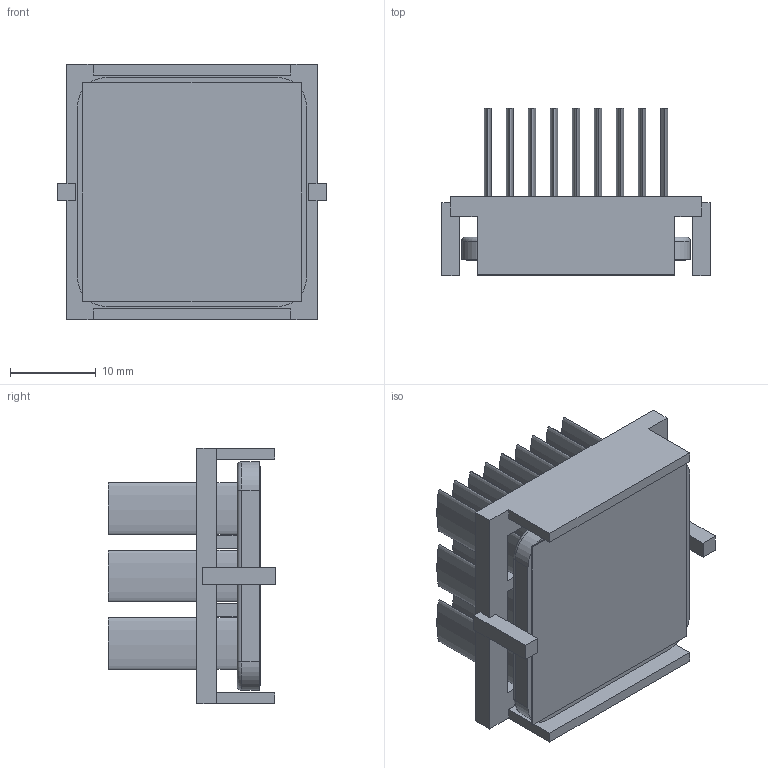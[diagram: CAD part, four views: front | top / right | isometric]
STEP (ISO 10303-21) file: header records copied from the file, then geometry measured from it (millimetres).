
FILE_DESCRIPTION (( 'STEP AP214' ), '1' );
FILE_NAME ('INM27001-18W_2.6+BU.STEP', '2023-02-17T18:19:00', ( '' ), ( '' ), 'SwSTEP 2.0', 'SolidWorks 2020', '' );
FILE_SCHEMA (( 'AUTOMOTIVE_DESIGN' ));
Length unit declared in the file: inch
Products named in the file (1): INM27001-18W_2.6+BU
Bounding box: 31.2 x 19.5 x 29.7 mm (x, y, z)
Volume: 4885.8 mm3; surface area: 10113.6 mm2
Topology: 3 solids, 3 shells, 159 faces, 370 edges, 244 vertices
Faces by surface type: plane 93, bspline 54, cylinder 8, torus 4
Entity records: 6735 total; most frequent: CARTESIAN_POINT 1476, ORIENTED_EDGE 740, DIRECTION 494, EDGE_CURVE 370, VERTEX_POINT 244, LINE 242, VECTOR 242, EDGE_LOOP 188
